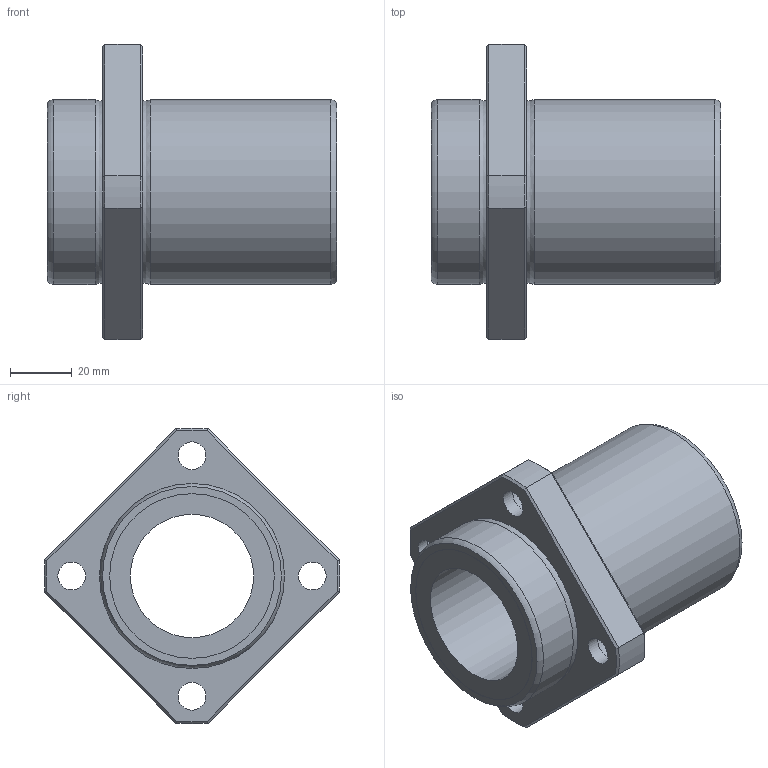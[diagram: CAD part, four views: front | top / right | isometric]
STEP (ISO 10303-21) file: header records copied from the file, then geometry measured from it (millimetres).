
FILE_DESCRIPTION((''),'2;1');
FILE_NAME('C:\Documents and Settings\土屋\My Documents\土屋移動用フォルダ\製品 (図面)\カタログ用3D\変換ファイル\OZAK_3D-CAD(STEP形式)\Part1.-Linear Bearings_ﾘﾆｱﾍﾞｱﾘﾝｸﾞ\09_Maintenance Free_ﾒｲﾝﾃﾅﾝｽﾌﾘｰ\L2017-09-21T13:44:16','2017-09-21T13:44:16',('y'),(''),'Autodesk Inventor 11','Autodesk Inventor 11','');
FILE_SCHEMA(('AUTOMOTIVE_DESIGN { 1 0 10303 214 1 1 1 1 }'));
Length unit declared in the file: millimetre
Products named in the file (1): LFKB-MF
Bounding box: 94 x 95.93 x 95.93 mm (x, y, z)
Volume: 175223.9 mm3; surface area: 40435 mm2
Topology: 1 solids, 1 shells, 51 faces, 103 edges, 62 vertices
Faces by surface type: plane 18, bspline 14, cylinder 9, cone 8, torus 2
Full cylindrical faces by diameter (mm): 40 x1, 53.4 x2, 60 x2
Entity records: 1517 total; most frequent: CARTESIAN_POINT 520, DIRECTION 192, ORIENTED_EDGE 172, EDGE_CURVE 86, EDGE_LOOP 86, AXIS2_PLACEMENT_3D 84, VERTEX_POINT 62, FACE_OUTER_BOUND 51
